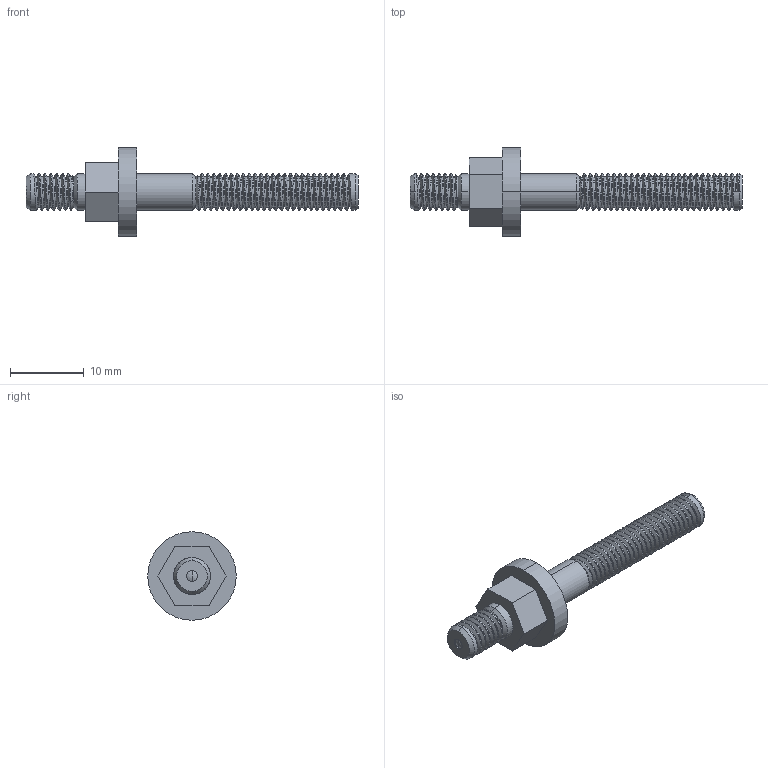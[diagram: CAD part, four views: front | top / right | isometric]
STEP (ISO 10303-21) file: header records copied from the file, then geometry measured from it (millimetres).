
FILE_DESCRIPTION (( 'STEP AP214' ), '1' );
FILE_NAME ('FU-VC02.STEP', '2020-12-09T07:53:50', ( '' ), ( '' ), 'SwSTEP 2.0', 'SolidWorks 2018', '' );
FILE_SCHEMA (( 'AUTOMOTIVE_DESIGN' ));
Length unit declared in the file: millimetre
Products named in the file (1): FU-VC02
Bounding box: 45 x 12 x 12 mm (x, y, z)
Volume: 1105.3 mm3; surface area: 1292.2 mm2
Topology: 1 solids, 1 shells, 122 faces, 323 edges, 205 vertices
Faces by surface type: cylinder 80, plane 16, cone 14, bspline 10, torus 2
Entity records: 9032 total; most frequent: CARTESIAN_POINT 6420, ORIENTED_EDGE 638, DIRECTION 426, EDGE_CURVE 319, VERTEX_POINT 205, AXIS2_PLACEMENT_3D 158, EDGE_LOOP 128, ADVANCED_FACE 122
